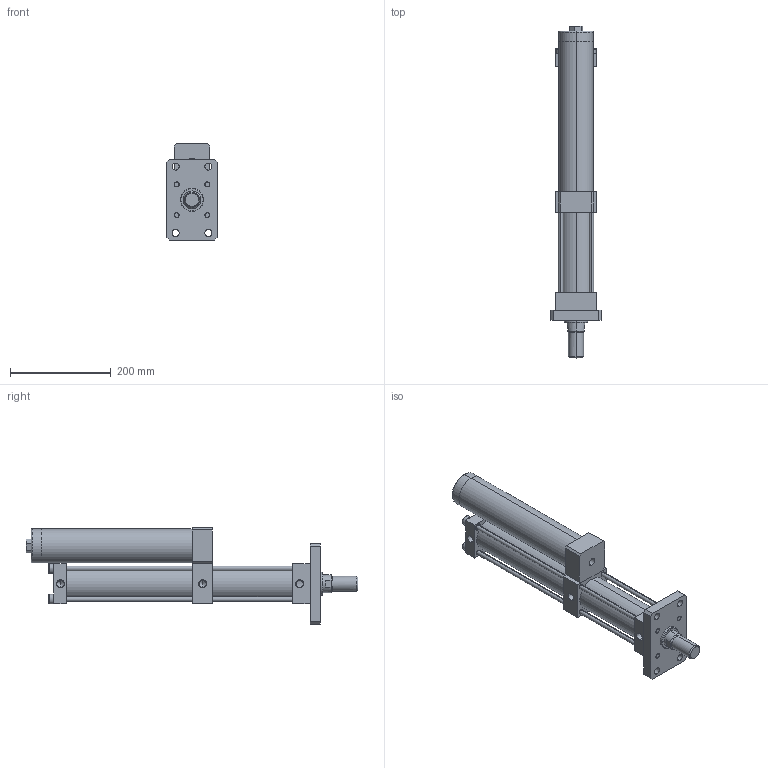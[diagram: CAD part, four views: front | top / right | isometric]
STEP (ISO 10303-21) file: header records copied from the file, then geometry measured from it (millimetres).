
FILE_DESCRIPTION (( 'STEP AP203' ), '1' );
FILE_NAME ('MPT-63-100-20-1T.STEP', '2016-03-17T09:39:58', ( 'WIN' ), ( '' ), 'SwSTEP 2.0', 'SolidWorks 2014', '' );
FILE_SCHEMA (( 'CONFIG_CONTROL_DESIGN' ));
Length unit declared in the file: millimetre
Products named in the file (1): MPT-63-100-20-1T
Bounding box: 100 x 660 x 191 mm (x, y, z)
Volume: 2677901.7 mm3; surface area: 477669.4 mm2
Topology: 14 solids, 14 shells, 251 faces, 573 edges, 360 vertices
Faces by surface type: plane 131, cylinder 84, cone 24, torus 12
Entity records: 7235 total; most frequent: DIRECTION 1304, CARTESIAN_POINT 1278, ORIENTED_EDGE 1134, EDGE_CURVE 567, AXIS2_PLACEMENT_3D 496, VERTEX_POINT 360, VECTOR 312, LINE 312
